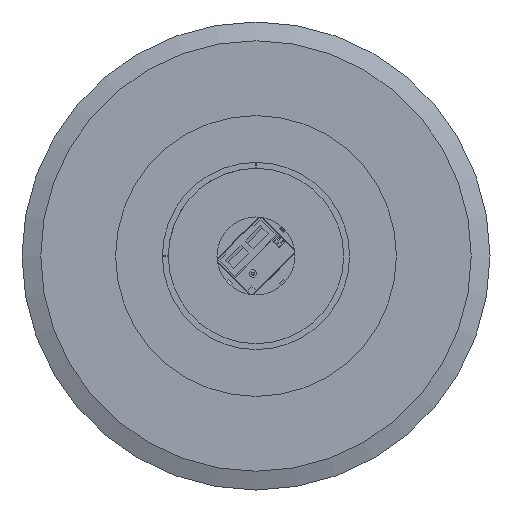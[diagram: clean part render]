
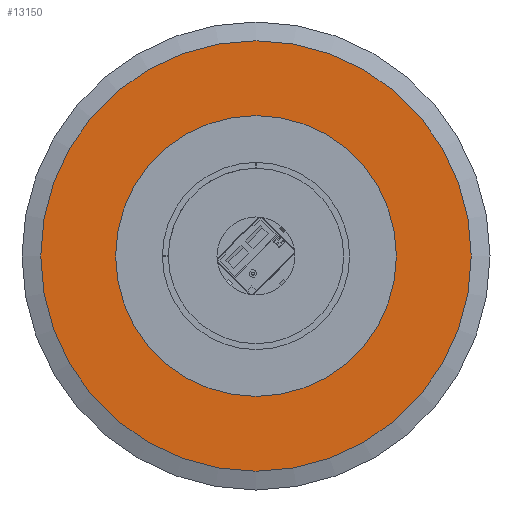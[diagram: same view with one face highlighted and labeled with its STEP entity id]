
A CAD part, front view. The second image highlights one B-rep face of the part: STEP entity #13150.
In plain terms, the highlighted planar face has unit normal (0, -1, 0).
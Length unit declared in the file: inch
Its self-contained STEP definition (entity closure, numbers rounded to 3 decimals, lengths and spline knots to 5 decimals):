
#1098=FACE_BOUND('',#2447,.T.);
#1355=PLANE('',#14317);
#1768=FACE_OUTER_BOUND('',#2446,.T.);
#2446=EDGE_LOOP('',(#9241));
#2447=EDGE_LOOP('',(#9242,#9243,#9244,#9245));
#3144=CIRCLE('',#14314,27.59596);
#3561=LINE('',#19598,#4854);
#3565=LINE('',#19606,#4858);
#3568=LINE('',#19612,#4861);
#3571=LINE('',#19617,#4864);
#4854=VECTOR('',#15741,0.3937);
#4858=VECTOR('',#15747,0.3937);
#4861=VECTOR('',#15752,0.3937);
#4864=VECTOR('',#15757,0.3937);
#6141=VERTEX_POINT('',#19596);
#6142=VERTEX_POINT('',#19597);
#6145=VERTEX_POINT('',#19605);
#6147=VERTEX_POINT('',#19611);
#6151=VERTEX_POINT('',#19624);
#7337=EDGE_CURVE('',#6141,#6142,#3561,.T.);
#7341=EDGE_CURVE('',#6142,#6145,#3565,.T.);
#7344=EDGE_CURVE('',#6145,#6147,#3568,.T.);
#7347=EDGE_CURVE('',#6147,#6141,#3571,.T.);
#7352=EDGE_CURVE('',#6151,#6151,#3144,.T.);
#9241=ORIENTED_EDGE('',*,*,#7352,.F.);
#9242=ORIENTED_EDGE('',*,*,#7344,.T.);
#9243=ORIENTED_EDGE('',*,*,#7347,.T.);
#9244=ORIENTED_EDGE('',*,*,#7337,.T.);
#9245=ORIENTED_EDGE('',*,*,#7341,.T.);
#13150=ADVANCED_FACE('',(#1768,#1098),#1355,.F.);
#14314=AXIS2_PLACEMENT_3D('',#19626,#15766,#15767);
#14317=AXIS2_PLACEMENT_3D('',#19631,#15773,#15774);
#15741=DIRECTION('',(0.707,0.,0.707));
#15747=DIRECTION('',(0.707,0.,-0.707));
#15752=DIRECTION('',(-0.707,0.,-0.707));
#15757=DIRECTION('',(-0.707,0.,0.707));
#15766=DIRECTION('center_axis',(0.,1.,0.));
#15767=DIRECTION('ref_axis',(-1.,0.,0.));
#15773=DIRECTION('center_axis',(0.,1.,0.));
#15774=DIRECTION('ref_axis',(0.,0.,1.));
#19596=CARTESIAN_POINT('',(-4.99394,28.,-0.57452));
#19597=CARTESIAN_POINT('',(0.57452,28.,4.99394));
#19598=CARTESIAN_POINT('',(-0.81759,28.,3.60183));
#19605=CARTESIAN_POINT('',(4.99394,28.,0.57452));
#19606=CARTESIAN_POINT('',(3.88909,28.,1.67938));
#19611=CARTESIAN_POINT('',(-0.57452,28.,-4.99394));
#19612=CARTESIAN_POINT('',(0.81759,28.,-3.60183));
#19617=CARTESIAN_POINT('',(-3.88909,28.,-1.67938));
#19624=CARTESIAN_POINT('',(27.59596,28.,0.));
#19626=CARTESIAN_POINT('Origin',(0.,28.,0.));
#19631=CARTESIAN_POINT('Origin',(0.,28.,0.));
